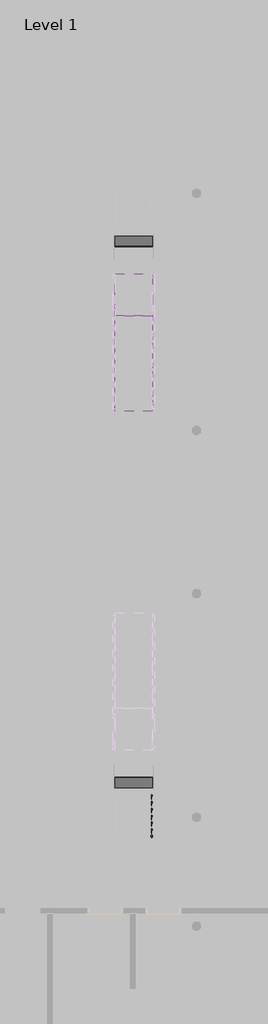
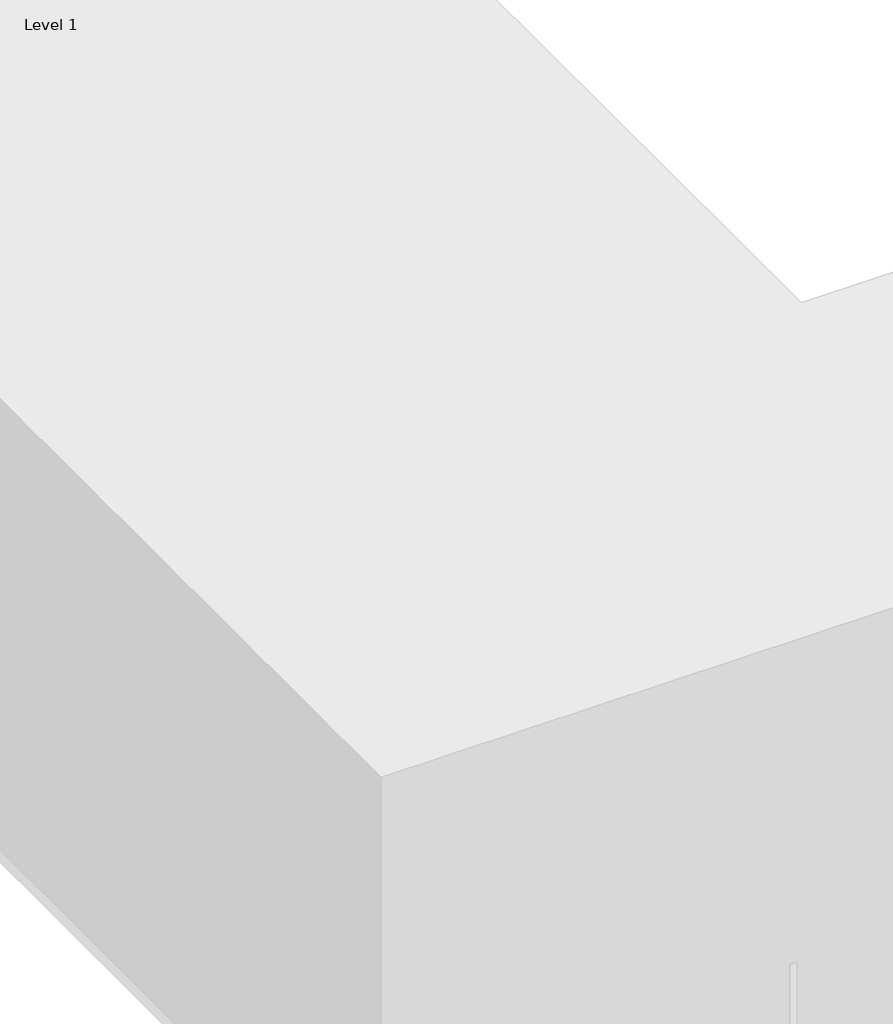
# One storey, part 19 of 23: 3 stair flights, 1 railing, 1 slab.
"""IFC4 building model written with IfcOpenShell, lengths in millimetres."""

from ifc_helpers import new_model, si_unit, frame, origin, place, context, project, spatial, circle_curve, ellipse_curve, transform, mapped, element, save
from ifc_brep_helpers import plane_surface, cylinder_surface, advanced_brep
from components import non_monolithic_landing_4b8d17eb, stair_flight_50mm_tread_25mm_nosing_13mm_riser_1179de64, stair_flight_50mm_tread_25mm_nosing_13mm_riser_29f21586, stair_flight_50mm_tread_25mm_nosing_13mm_riser_00f31970

model = new_model("IFC4")

# Units and contexts
model_context = context("Model", 3, world=origin())
ifc_project = project(units=[si_unit("LENGTHUNIT", "METRE", prefix="MILLI")], contexts=[model_context])

# Site, building, storey
site = spatial("IfcSite", under=ifc_project)
building = spatial("IfcBuilding", under=site)
storey = spatial("IfcBuildingStorey", under=building, Name="Level 1", Elevation=0.0)

# Railing
placement = place(None, origin())
element("IfcRailing", 1, ObjectType="900mm Pipe", at=placement, inside=storey, context=model_context, shape_type="AdvancedBrep", body=[
    advanced_brep(
    [(3663.2567657, -13373.8611817, 1049.1094102), (3623.2567657, -13373.8611817, 1049.1094102), (3663.2567657, -10618.1011638, 2780.0), (3623.2567657, -10618.1011638, 2780.0), (3663.2567657, -9693.1011638, 2780.0), (3623.2567657, -9693.1011638, 2780.0), (3663.2567657, -9413.2234845, 2955.790939), (3623.2567657, -9413.2234845, 2955.790939), (3663.2567657, -6673.8611817, 4676.3821375), (3623.2567657, -6673.8611817, 4676.3821375)],
    [
        (0, 1, ellipse_curve(frame((3643.2567657, -13373.8611817, 1049.1094102), z_axis=(0.0, -1.0, 0.0), x_axis=(0.0, 0.0, -1.0)), 23.6178625, 20.0)),
        (1, 0, ellipse_curve(frame((3643.2567657, -13373.8611817, 1049.1094102), z_axis=(0.0, -1.0, 0.0), x_axis=(0.0, 0.0, -1.0)), 23.6178625, 20.0)),
        (0, 2),
        (2, 3, ellipse_curve(frame((3643.2567657, -10618.1011638, 2780.0), z_axis=(0.0, -0.9609413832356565, -0.2767519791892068), x_axis=(0.0, 0.2767519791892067, -0.9609413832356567)), 20.812924, 20.0)),
        (3, 1),
        (3, 2, ellipse_curve(frame((3643.2567657, -10618.1011638, 2780.0), z_axis=(0.0, -0.9609413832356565, -0.2767519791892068), x_axis=(0.0, 0.2767519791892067, -0.9609413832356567)), 20.812924, 20.0)),
        (2, 4),
        (4, 5, ellipse_curve(frame((3643.2567657, -9693.1011638, 2780.0), z_axis=(0.0, -0.9609413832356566, -0.2767519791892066), x_axis=(0.0, -0.2767519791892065, 0.9609413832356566)), 20.812924, 20.0)),
        (5, 3),
        (5, 4, ellipse_curve(frame((3643.2567657, -9693.1011638, 2780.0), z_axis=(0.0, -0.9609413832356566, -0.2767519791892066), x_axis=(0.0, -0.2767519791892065, 0.9609413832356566)), 20.812924, 20.0)),
        (4, 6),
        (6, 7, circle_curve(frame((3643.2567657, -9413.2234845, 2955.790939), z_axis=(0.0, -0.846816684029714, -0.5318848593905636), x_axis=(-1.0, 0.0, 0.0)), 20.0)),
        (7, 5),
        (7, 6, circle_curve(frame((3643.2567657, -9413.2234845, 2955.790939), z_axis=(0.0, -0.846816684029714, -0.5318848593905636), x_axis=(-1.0, 0.0, 0.0)), 20.0)),
        (8, 9, ellipse_curve(frame((3643.2567657, -6673.8611817, 4676.3821375), z_axis=(0.0, 1.0, 0.0), x_axis=(0.0, 0.0, -1.0)), 23.6178625, 20.0)),
        (9, 8, ellipse_curve(frame((3643.2567657, -6673.8611817, 4676.3821375), z_axis=(0.0, 1.0, 0.0), x_axis=(0.0, 0.0, -1.0)), 23.6178625, 20.0)),
        (6, 8),
        (9, 7),
    ],
    [
        plane_surface(frame((3643.2567657, -13373.8611817, 1072.7272727), z_axis=(0.0, -1.0, 0.0), x_axis=(0.0, 0.0, 1.0))),
        cylinder_surface(frame((3643.2567657, -13363.2234845, 1055.790939), z_axis=(0.0, -0.8468166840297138, -0.5318848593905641), x_axis=(-1.0, 0.0, 0.0)), 20.0),
        cylinder_surface(frame((3643.2567657, -10623.8611817, 2780.0), z_axis=(0.0, -1.0, 0.0), x_axis=(-1.0, 0.0, 0.0)), 20.0),
        cylinder_surface(frame((3643.2567657, -9688.2234845, 2783.0636663), z_axis=(0.0, -0.846816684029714, -0.5318848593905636), x_axis=(-1.0, 0.0, 0.0)), 20.0),
        plane_surface(frame((3643.2567657, -6673.8611817, 4700.0), z_axis=(0.0, 1.0, 0.0), x_axis=(0.0, 0.0, 1.0))),
        cylinder_surface(frame((3643.2567657, -9413.2234845, 2955.790939), z_axis=(0.0, -0.8468166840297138, -0.5318848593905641), x_axis=(-1.0, 0.0, 0.0)), 20.0),
    ],
    [
        (0, [[1, 2]]),
        (1, [[-1, 3, 4, 5]]),
        (1, [[-2, -5, 6, -3]]),
        (2, [[-4, 7, 8, 9]]),
        (2, [[-6, -9, 10, -7]]),
        (3, [[-8, 11, 12, 13]]),
        (3, [[-10, -13, 14, -11]]),
        (4, [[15, 16]]),
        (5, [[-12, 17, -16, 18]]),
        (5, [[-14, -18, -15, -17]]),
    ],
),
    advanced_brep(
    [(3628.2567657, -13373.8611817, 930.0138759), (3658.2567657, -13373.8611817, 930.0138759), (3628.2567657, -10623.8611817, 2657.2866031), (3658.2567657, -10623.8611817, 2657.2866031)],
    [
        (0, 1, ellipse_curve(frame((3643.2567657, -13373.8611817, 930.0138759), z_axis=(0.0, -1.0, 0.0), x_axis=(0.0, 0.0, -1.0)), 17.7133969, 15.0)),
        (1, 0, ellipse_curve(frame((3643.2567657, -13373.8611817, 930.0138759), z_axis=(0.0, -1.0, 0.0), x_axis=(0.0, 0.0, -1.0)), 17.7133969, 15.0)),
        (2, 3, ellipse_curve(frame((3643.2567657, -10623.8611817, 2657.2866031), z_axis=(0.0, 1.0, 0.0), x_axis=(0.0, 0.0, -1.0)), 17.7133969, 15.0)),
        (3, 2, ellipse_curve(frame((3643.2567657, -10623.8611817, 2657.2866031), z_axis=(0.0, 1.0, 0.0), x_axis=(0.0, 0.0, -1.0)), 17.7133969, 15.0)),
        (0, 2),
        (3, 1),
    ],
    [
        plane_surface(frame((3643.2567657, -13373.8611817, 947.7272727), z_axis=(0.0, -1.0, 0.0), x_axis=(0.0, 0.0, 1.0))),
        plane_surface(frame((3643.2567657, -10623.8611817, 2675.0), z_axis=(0.0, 1.0, 0.0), x_axis=(0.0, 0.0, 1.0))),
        cylinder_surface(frame((3643.2567657, -13365.8829088, 935.0250225), z_axis=(0.0, -0.8468166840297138, -0.5318848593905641), x_axis=(1.0, 0.0, 0.0)), 15.0),
    ],
    [
        (0, [[1, 2]]),
        (1, [[3, 4]]),
        (2, [[-1, 5, -4, 6]]),
        (2, [[-2, -6, -3, -5]]),
    ],
),
    advanced_brep(
    [(3628.2567657, -10623.8611817, 2660.0), (3658.2567657, -10623.8611817, 2660.0), (3628.2567657, -9694.5411682, 2660.0), (3658.2567657, -9694.5411682, 2660.0), (3628.2567657, -9423.8611817, 2830.0138759), (3658.2567657, -9423.8611817, 2830.0138759)],
    [
        (0, 1, circle_curve(frame((3643.2567657, -10623.8611817, 2660.0), z_axis=(0.0, -1.0, 0.0), x_axis=(1.0, 0.0, 0.0)), 15.0)),
        (1, 0, circle_curve(frame((3643.2567657, -10623.8611817, 2660.0), z_axis=(0.0, -1.0, 0.0), x_axis=(1.0, 0.0, 0.0)), 15.0)),
        (0, 2),
        (2, 3, ellipse_curve(frame((3643.2567657, -9694.5411682, 2660.0), z_axis=(0.0, -0.9609413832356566, -0.2767519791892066), x_axis=(0.0, -0.27675197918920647, 0.9609413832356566)), 15.609693, 15.0)),
        (3, 1),
        (3, 2, ellipse_curve(frame((3643.2567657, -9694.5411682, 2660.0), z_axis=(0.0, -0.9609413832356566, -0.2767519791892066), x_axis=(0.0, -0.27675197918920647, 0.9609413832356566)), 15.609693, 15.0)),
        (4, 5, ellipse_curve(frame((3643.2567657, -9423.8611817, 2830.0138759), z_axis=(0.0, 1.0, 0.0), x_axis=(0.0, 0.0, -1.0)), 17.7133969, 15.0)),
        (5, 4, ellipse_curve(frame((3643.2567657, -9423.8611817, 2830.0138759), z_axis=(0.0, 1.0, 0.0), x_axis=(0.0, 0.0, -1.0)), 17.7133969, 15.0)),
        (2, 4),
        (5, 3),
    ],
    [
        plane_surface(frame((3643.2567657, -10623.8611817, 2675.0), z_axis=(0.0, -1.0, 0.0), x_axis=(0.0, 0.0, 1.0))),
        cylinder_surface(frame((3643.2567657, -10623.8611817, 2660.0), z_axis=(0.0, -1.0, 0.0), x_axis=(1.0, 0.0, 0.0)), 15.0),
        plane_surface(frame((3643.2567657, -9423.8611817, 2847.7272727), z_axis=(0.0, 1.0, 0.0), x_axis=(0.0, 0.0, 1.0))),
        cylinder_surface(frame((3643.2567657, -9690.8829088, 2662.2977497), z_axis=(0.0, -0.846816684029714, -0.5318848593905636), x_axis=(1.0, 0.0, 0.0)), 15.0),
    ],
    [
        (0, [[1, 2]]),
        (1, [[-1, 3, 4, 5]]),
        (1, [[-2, -5, 6, -3]]),
        (2, [[7, 8]]),
        (3, [[-4, 9, -8, 10]]),
        (3, [[-6, -10, -7, -9]]),
    ],
),
    advanced_brep(
    [(3628.2567657, -9423.8611817, 2830.0138759), (3658.2567657, -9423.8611817, 2830.0138759), (3628.2567657, -6673.8611817, 4557.2866031), (3658.2567657, -6673.8611817, 4557.2866031)],
    [
        (0, 1, ellipse_curve(frame((3643.2567657, -9423.8611817, 2830.0138759), z_axis=(0.0, -1.0, 0.0), x_axis=(0.0, 0.0, -1.0)), 17.7133969, 15.0)),
        (1, 0, ellipse_curve(frame((3643.2567657, -9423.8611817, 2830.0138759), z_axis=(0.0, -1.0, 0.0), x_axis=(0.0, 0.0, -1.0)), 17.7133969, 15.0)),
        (2, 3, ellipse_curve(frame((3643.2567657, -6673.8611817, 4557.2866031), z_axis=(0.0, 1.0, 0.0), x_axis=(0.0, 0.0, -1.0)), 17.7133969, 15.0)),
        (3, 2, ellipse_curve(frame((3643.2567657, -6673.8611817, 4557.2866031), z_axis=(0.0, 1.0, 0.0), x_axis=(0.0, 0.0, -1.0)), 17.7133969, 15.0)),
        (0, 2),
        (3, 1),
    ],
    [
        plane_surface(frame((3643.2567657, -9423.8611817, 2847.7272727), z_axis=(0.0, -1.0, 0.0), x_axis=(0.0, 0.0, 1.0))),
        plane_surface(frame((3643.2567657, -6673.8611817, 4575.0), z_axis=(0.0, 1.0, 0.0), x_axis=(0.0, 0.0, 1.0))),
        cylinder_surface(frame((3643.2567657, -9415.8829088, 2835.0250225), z_axis=(0.0, -0.8468166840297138, -0.5318848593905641), x_axis=(1.0, 0.0, 0.0)), 15.0),
    ],
    [
        (0, [[1, 2]]),
        (1, [[3, 4]]),
        (2, [[-1, 5, -4, 6]]),
        (2, [[-2, -6, -3, -5]]),
    ],
),
    advanced_brep(
    [(3628.2567657, -13373.8611817, 805.0138759), (3658.2567657, -13373.8611817, 805.0138759), (3628.2567657, -10623.8611817, 2532.2866031), (3658.2567657, -10623.8611817, 2532.2866031)],
    [
        (0, 1, ellipse_curve(frame((3643.2567657, -13373.8611817, 805.0138759), z_axis=(0.0, -1.0, 0.0), x_axis=(0.0, 0.0, -1.0)), 17.7133969, 15.0)),
        (1, 0, ellipse_curve(frame((3643.2567657, -13373.8611817, 805.0138759), z_axis=(0.0, -1.0, 0.0), x_axis=(0.0, 0.0, -1.0)), 17.7133969, 15.0)),
        (2, 3, ellipse_curve(frame((3643.2567657, -10623.8611817, 2532.2866031), z_axis=(0.0, 1.0, 0.0), x_axis=(0.0, 0.0, -1.0)), 17.7133969, 15.0)),
        (3, 2, ellipse_curve(frame((3643.2567657, -10623.8611817, 2532.2866031), z_axis=(0.0, 1.0, 0.0), x_axis=(0.0, 0.0, -1.0)), 17.7133969, 15.0)),
        (0, 2),
        (3, 1),
    ],
    [
        plane_surface(frame((3643.2567657, -13373.8611817, 822.7272727), z_axis=(0.0, -1.0, 0.0), x_axis=(0.0, 0.0, 1.0))),
        plane_surface(frame((3643.2567657, -10623.8611817, 2550.0), z_axis=(0.0, 1.0, 0.0), x_axis=(0.0, 0.0, 1.0))),
        cylinder_surface(frame((3643.2567657, -13365.8829088, 810.0250225), z_axis=(0.0, -0.8468166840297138, -0.5318848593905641), x_axis=(1.0, 0.0, 0.0)), 15.0),
    ],
    [
        (0, [[1, 2]]),
        (1, [[3, 4]]),
        (2, [[-1, 5, -4, 6]]),
        (2, [[-2, -6, -3, -5]]),
    ],
),
    advanced_brep(
    [(3628.2567657, -10623.8611817, 2535.0), (3658.2567657, -10623.8611817, 2535.0), (3628.2567657, -9694.5411682, 2535.0), (3658.2567657, -9694.5411682, 2535.0), (3628.2567657, -9423.8611817, 2705.0138759), (3658.2567657, -9423.8611817, 2705.0138759)],
    [
        (0, 1, circle_curve(frame((3643.2567657, -10623.8611817, 2535.0), z_axis=(0.0, -1.0, 0.0), x_axis=(1.0, 0.0, 0.0)), 15.0)),
        (1, 0, circle_curve(frame((3643.2567657, -10623.8611817, 2535.0), z_axis=(0.0, -1.0, 0.0), x_axis=(1.0, 0.0, 0.0)), 15.0)),
        (0, 2),
        (2, 3, ellipse_curve(frame((3643.2567657, -9694.5411682, 2535.0), z_axis=(0.0, -0.9609413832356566, -0.2767519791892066), x_axis=(0.0, -0.27675197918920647, 0.9609413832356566)), 15.609693, 15.0)),
        (3, 1),
        (3, 2, ellipse_curve(frame((3643.2567657, -9694.5411682, 2535.0), z_axis=(0.0, -0.9609413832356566, -0.2767519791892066), x_axis=(0.0, -0.27675197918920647, 0.9609413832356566)), 15.609693, 15.0)),
        (4, 5, ellipse_curve(frame((3643.2567657, -9423.8611817, 2705.0138759), z_axis=(0.0, 1.0, 0.0), x_axis=(0.0, 0.0, -1.0)), 17.7133969, 15.0)),
        (5, 4, ellipse_curve(frame((3643.2567657, -9423.8611817, 2705.0138759), z_axis=(0.0, 1.0, 0.0), x_axis=(0.0, 0.0, -1.0)), 17.7133969, 15.0)),
        (2, 4),
        (5, 3),
    ],
    [
        plane_surface(frame((3643.2567657, -10623.8611817, 2550.0), z_axis=(0.0, -1.0, 0.0), x_axis=(0.0, 0.0, 1.0))),
        cylinder_surface(frame((3643.2567657, -10623.8611817, 2535.0), z_axis=(0.0, -1.0, 0.0), x_axis=(1.0, 0.0, 0.0)), 15.0),
        plane_surface(frame((3643.2567657, -9423.8611817, 2722.7272727), z_axis=(0.0, 1.0, 0.0), x_axis=(0.0, 0.0, 1.0))),
        cylinder_surface(frame((3643.2567657, -9690.8829088, 2537.2977497), z_axis=(0.0, -0.846816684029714, -0.5318848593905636), x_axis=(1.0, 0.0, 0.0)), 15.0),
    ],
    [
        (0, [[1, 2]]),
        (1, [[-1, 3, 4, 5]]),
        (1, [[-2, -5, 6, -3]]),
        (2, [[7, 8]]),
        (3, [[-4, 9, -8, 10]]),
        (3, [[-6, -10, -7, -9]]),
    ],
),
    advanced_brep(
    [(3628.2567657, -9423.8611817, 2705.0138759), (3658.2567657, -9423.8611817, 2705.0138759), (3628.2567657, -6673.8611817, 4432.2866031), (3658.2567657, -6673.8611817, 4432.2866031)],
    [
        (0, 1, ellipse_curve(frame((3643.2567657, -9423.8611817, 2705.0138759), z_axis=(0.0, -1.0, 0.0), x_axis=(0.0, 0.0, -1.0)), 17.7133969, 15.0)),
        (1, 0, ellipse_curve(frame((3643.2567657, -9423.8611817, 2705.0138759), z_axis=(0.0, -1.0, 0.0), x_axis=(0.0, 0.0, -1.0)), 17.7133969, 15.0)),
        (2, 3, ellipse_curve(frame((3643.2567657, -6673.8611817, 4432.2866031), z_axis=(0.0, 1.0, 0.0), x_axis=(0.0, 0.0, -1.0)), 17.7133969, 15.0)),
        (3, 2, ellipse_curve(frame((3643.2567657, -6673.8611817, 4432.2866031), z_axis=(0.0, 1.0, 0.0), x_axis=(0.0, 0.0, -1.0)), 17.7133969, 15.0)),
        (0, 2),
        (3, 1),
    ],
    [
        plane_surface(frame((3643.2567657, -9423.8611817, 2722.7272727), z_axis=(0.0, -1.0, 0.0), x_axis=(0.0, 0.0, 1.0))),
        plane_surface(frame((3643.2567657, -6673.8611817, 4450.0), z_axis=(0.0, 1.0, 0.0), x_axis=(0.0, 0.0, 1.0))),
        cylinder_surface(frame((3643.2567657, -9415.8829088, 2710.0250225), z_axis=(0.0, -0.8468166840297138, -0.5318848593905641), x_axis=(1.0, 0.0, 0.0)), 15.0),
    ],
    [
        (0, [[1, 2]]),
        (1, [[3, 4]]),
        (2, [[-1, 5, -4, 6]]),
        (2, [[-2, -6, -3, -5]]),
    ],
),
    advanced_brep(
    [(3628.2567657, -13373.8611817, 680.0138759), (3658.2567657, -13373.8611817, 680.0138759), (3628.2567657, -10623.8611817, 2407.2866031), (3658.2567657, -10623.8611817, 2407.2866031)],
    [
        (0, 1, ellipse_curve(frame((3643.2567657, -13373.8611817, 680.0138759), z_axis=(0.0, -1.0, 0.0), x_axis=(0.0, 0.0, -1.0)), 17.7133969, 15.0)),
        (1, 0, ellipse_curve(frame((3643.2567657, -13373.8611817, 680.0138759), z_axis=(0.0, -1.0, 0.0), x_axis=(0.0, 0.0, -1.0)), 17.7133969, 15.0)),
        (2, 3, ellipse_curve(frame((3643.2567657, -10623.8611817, 2407.2866031), z_axis=(0.0, 1.0, 0.0), x_axis=(0.0, 0.0, -1.0)), 17.7133969, 15.0)),
        (3, 2, ellipse_curve(frame((3643.2567657, -10623.8611817, 2407.2866031), z_axis=(0.0, 1.0, 0.0), x_axis=(0.0, 0.0, -1.0)), 17.7133969, 15.0)),
        (0, 2),
        (3, 1),
    ],
    [
        plane_surface(frame((3643.2567657, -13373.8611817, 697.7272727), z_axis=(0.0, -1.0, 0.0), x_axis=(0.0, 0.0, 1.0))),
        plane_surface(frame((3643.2567657, -10623.8611817, 2425.0), z_axis=(0.0, 1.0, 0.0), x_axis=(0.0, 0.0, 1.0))),
        cylinder_surface(frame((3643.2567657, -13365.8829088, 685.0250225), z_axis=(0.0, -0.8468166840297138, -0.5318848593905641), x_axis=(1.0, 0.0, 0.0)), 15.0),
    ],
    [
        (0, [[1, 2]]),
        (1, [[3, 4]]),
        (2, [[-1, 5, -4, 6]]),
        (2, [[-2, -6, -3, -5]]),
    ],
),
    advanced_brep(
    [(3628.2567657, -10623.8611817, 2410.0), (3658.2567657, -10623.8611817, 2410.0), (3628.2567657, -9694.5411682, 2410.0), (3658.2567657, -9694.5411682, 2410.0), (3628.2567657, -9423.8611817, 2580.0138759), (3658.2567657, -9423.8611817, 2580.0138759)],
    [
        (0, 1, circle_curve(frame((3643.2567657, -10623.8611817, 2410.0), z_axis=(0.0, -1.0, 0.0), x_axis=(1.0, 0.0, 0.0)), 15.0)),
        (1, 0, circle_curve(frame((3643.2567657, -10623.8611817, 2410.0), z_axis=(0.0, -1.0, 0.0), x_axis=(1.0, 0.0, 0.0)), 15.0)),
        (0, 2),
        (2, 3, ellipse_curve(frame((3643.2567657, -9694.5411682, 2410.0), z_axis=(0.0, -0.9609413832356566, -0.2767519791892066), x_axis=(0.0, -0.27675197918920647, 0.9609413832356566)), 15.609693, 15.0)),
        (3, 1),
        (3, 2, ellipse_curve(frame((3643.2567657, -9694.5411682, 2410.0), z_axis=(0.0, -0.9609413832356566, -0.2767519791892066), x_axis=(0.0, -0.27675197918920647, 0.9609413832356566)), 15.609693, 15.0)),
        (4, 5, ellipse_curve(frame((3643.2567657, -9423.8611817, 2580.0138759), z_axis=(0.0, 1.0, 0.0), x_axis=(0.0, 0.0, -1.0)), 17.7133969, 15.0)),
        (5, 4, ellipse_curve(frame((3643.2567657, -9423.8611817, 2580.0138759), z_axis=(0.0, 1.0, 0.0), x_axis=(0.0, 0.0, -1.0)), 17.7133969, 15.0)),
        (2, 4),
        (5, 3),
    ],
    [
        plane_surface(frame((3643.2567657, -10623.8611817, 2425.0), z_axis=(0.0, -1.0, 0.0), x_axis=(0.0, 0.0, 1.0))),
        cylinder_surface(frame((3643.2567657, -10623.8611817, 2410.0), z_axis=(0.0, -1.0, 0.0), x_axis=(1.0, 0.0, 0.0)), 15.0),
        plane_surface(frame((3643.2567657, -9423.8611817, 2597.7272727), z_axis=(0.0, 1.0, 0.0), x_axis=(0.0, 0.0, 1.0))),
        cylinder_surface(frame((3643.2567657, -9690.8829088, 2412.2977497), z_axis=(0.0, -0.846816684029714, -0.5318848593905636), x_axis=(1.0, 0.0, 0.0)), 15.0),
    ],
    [
        (0, [[1, 2]]),
        (1, [[-1, 3, 4, 5]]),
        (1, [[-2, -5, 6, -3]]),
        (2, [[7, 8]]),
        (3, [[-4, 9, -8, 10]]),
        (3, [[-6, -10, -7, -9]]),
    ],
),
    advanced_brep(
    [(3628.2567657, -9423.8611817, 2580.0138759), (3658.2567657, -9423.8611817, 2580.0138759), (3628.2567657, -6673.8611817, 4307.2866031), (3658.2567657, -6673.8611817, 4307.2866031)],
    [
        (0, 1, ellipse_curve(frame((3643.2567657, -9423.8611817, 2580.0138759), z_axis=(0.0, -1.0, 0.0), x_axis=(0.0, 0.0, -1.0)), 17.7133969, 15.0)),
        (1, 0, ellipse_curve(frame((3643.2567657, -9423.8611817, 2580.0138759), z_axis=(0.0, -1.0, 0.0), x_axis=(0.0, 0.0, -1.0)), 17.7133969, 15.0)),
        (2, 3, ellipse_curve(frame((3643.2567657, -6673.8611817, 4307.2866031), z_axis=(0.0, 1.0, 0.0), x_axis=(0.0, 0.0, -1.0)), 17.7133969, 15.0)),
        (3, 2, ellipse_curve(frame((3643.2567657, -6673.8611817, 4307.2866031), z_axis=(0.0, 1.0, 0.0), x_axis=(0.0, 0.0, -1.0)), 17.7133969, 15.0)),
        (0, 2),
        (3, 1),
    ],
    [
        plane_surface(frame((3643.2567657, -9423.8611817, 2597.7272727), z_axis=(0.0, -1.0, 0.0), x_axis=(0.0, 0.0, 1.0))),
        plane_surface(frame((3643.2567657, -6673.8611817, 4325.0), z_axis=(0.0, 1.0, 0.0), x_axis=(0.0, 0.0, 1.0))),
        cylinder_surface(frame((3643.2567657, -9415.8829088, 2585.0250225), z_axis=(0.0, -0.8468166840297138, -0.5318848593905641), x_axis=(1.0, 0.0, 0.0)), 15.0),
    ],
    [
        (0, [[1, 2]]),
        (1, [[3, 4]]),
        (2, [[-1, 5, -4, 6]]),
        (2, [[-2, -6, -3, -5]]),
    ],
),
    advanced_brep(
    [(3628.2567657, -13373.8611817, 555.0138759), (3658.2567657, -13373.8611817, 555.0138759), (3628.2567657, -10623.8611817, 2282.2866031), (3658.2567657, -10623.8611817, 2282.2866031)],
    [
        (0, 1, ellipse_curve(frame((3643.2567657, -13373.8611817, 555.0138759), z_axis=(0.0, -1.0, 0.0), x_axis=(0.0, 0.0, -1.0)), 17.7133969, 15.0)),
        (1, 0, ellipse_curve(frame((3643.2567657, -13373.8611817, 555.0138759), z_axis=(0.0, -1.0, 0.0), x_axis=(0.0, 0.0, -1.0)), 17.7133969, 15.0)),
        (2, 3, ellipse_curve(frame((3643.2567657, -10623.8611817, 2282.2866031), z_axis=(0.0, 1.0, 0.0), x_axis=(0.0, 0.0, -1.0)), 17.7133969, 15.0)),
        (3, 2, ellipse_curve(frame((3643.2567657, -10623.8611817, 2282.2866031), z_axis=(0.0, 1.0, 0.0), x_axis=(0.0, 0.0, -1.0)), 17.7133969, 15.0)),
        (0, 2),
        (3, 1),
    ],
    [
        plane_surface(frame((3643.2567657, -13373.8611817, 572.7272727), z_axis=(0.0, -1.0, 0.0), x_axis=(0.0, 0.0, 1.0))),
        plane_surface(frame((3643.2567657, -10623.8611817, 2300.0), z_axis=(0.0, 1.0, 0.0), x_axis=(0.0, 0.0, 1.0))),
        cylinder_surface(frame((3643.2567657, -13365.8829088, 560.0250225), z_axis=(0.0, -0.8468166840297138, -0.5318848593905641), x_axis=(1.0, 0.0, 0.0)), 15.0),
    ],
    [
        (0, [[1, 2]]),
        (1, [[3, 4]]),
        (2, [[-1, 5, -4, 6]]),
        (2, [[-2, -6, -3, -5]]),
    ],
),
    advanced_brep(
    [(3628.2567657, -10623.8611817, 2285.0), (3658.2567657, -10623.8611817, 2285.0), (3628.2567657, -9694.5411682, 2285.0), (3658.2567657, -9694.5411682, 2285.0), (3628.2567657, -9423.8611817, 2455.0138759), (3658.2567657, -9423.8611817, 2455.0138759)],
    [
        (0, 1, circle_curve(frame((3643.2567657, -10623.8611817, 2285.0), z_axis=(0.0, -1.0, 0.0), x_axis=(1.0, 0.0, 0.0)), 15.0)),
        (1, 0, circle_curve(frame((3643.2567657, -10623.8611817, 2285.0), z_axis=(0.0, -1.0, 0.0), x_axis=(1.0, 0.0, 0.0)), 15.0)),
        (0, 2),
        (2, 3, ellipse_curve(frame((3643.2567657, -9694.5411682, 2285.0), z_axis=(0.0, -0.9609413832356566, -0.2767519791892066), x_axis=(0.0, -0.27675197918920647, 0.9609413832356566)), 15.609693, 15.0)),
        (3, 1),
        (3, 2, ellipse_curve(frame((3643.2567657, -9694.5411682, 2285.0), z_axis=(0.0, -0.9609413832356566, -0.2767519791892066), x_axis=(0.0, -0.27675197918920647, 0.9609413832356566)), 15.609693, 15.0)),
        (4, 5, ellipse_curve(frame((3643.2567657, -9423.8611817, 2455.0138759), z_axis=(0.0, 1.0, 0.0), x_axis=(0.0, 0.0, -1.0)), 17.7133969, 15.0)),
        (5, 4, ellipse_curve(frame((3643.2567657, -9423.8611817, 2455.0138759), z_axis=(0.0, 1.0, 0.0), x_axis=(0.0, 0.0, -1.0)), 17.7133969, 15.0)),
        (2, 4),
        (5, 3),
    ],
    [
        plane_surface(frame((3643.2567657, -10623.8611817, 2300.0), z_axis=(0.0, -1.0, 0.0), x_axis=(0.0, 0.0, 1.0))),
        cylinder_surface(frame((3643.2567657, -10623.8611817, 2285.0), z_axis=(0.0, -1.0, 0.0), x_axis=(1.0, 0.0, 0.0)), 15.0),
        plane_surface(frame((3643.2567657, -9423.8611817, 2472.7272727), z_axis=(0.0, 1.0, 0.0), x_axis=(0.0, 0.0, 1.0))),
        cylinder_surface(frame((3643.2567657, -9690.8829088, 2287.2977497), z_axis=(0.0, -0.846816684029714, -0.5318848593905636), x_axis=(1.0, 0.0, 0.0)), 15.0),
    ],
    [
        (0, [[1, 2]]),
        (1, [[-1, 3, 4, 5]]),
        (1, [[-2, -5, 6, -3]]),
        (2, [[7, 8]]),
        (3, [[-4, 9, -8, 10]]),
        (3, [[-6, -10, -7, -9]]),
    ],
),
    advanced_brep(
    [(3628.2567657, -9423.8611817, 2455.0138759), (3658.2567657, -9423.8611817, 2455.0138759), (3628.2567657, -6673.8611817, 4182.2866031), (3658.2567657, -6673.8611817, 4182.2866031)],
    [
        (0, 1, ellipse_curve(frame((3643.2567657, -9423.8611817, 2455.0138759), z_axis=(0.0, -1.0, 0.0), x_axis=(0.0, 0.0, -1.0)), 17.7133969, 15.0)),
        (1, 0, ellipse_curve(frame((3643.2567657, -9423.8611817, 2455.0138759), z_axis=(0.0, -1.0, 0.0), x_axis=(0.0, 0.0, -1.0)), 17.7133969, 15.0)),
        (2, 3, ellipse_curve(frame((3643.2567657, -6673.8611817, 4182.2866031), z_axis=(0.0, 1.0, 0.0), x_axis=(0.0, 0.0, -1.0)), 17.7133969, 15.0)),
        (3, 2, ellipse_curve(frame((3643.2567657, -6673.8611817, 4182.2866031), z_axis=(0.0, 1.0, 0.0), x_axis=(0.0, 0.0, -1.0)), 17.7133969, 15.0)),
        (0, 2),
        (3, 1),
    ],
    [
        plane_surface(frame((3643.2567657, -9423.8611817, 2472.7272727), z_axis=(0.0, -1.0, 0.0), x_axis=(0.0, 0.0, 1.0))),
        plane_surface(frame((3643.2567657, -6673.8611817, 4200.0), z_axis=(0.0, 1.0, 0.0), x_axis=(0.0, 0.0, 1.0))),
        cylinder_surface(frame((3643.2567657, -9415.8829088, 2460.0250225), z_axis=(0.0, -0.8468166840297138, -0.5318848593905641), x_axis=(1.0, 0.0, 0.0)), 15.0),
    ],
    [
        (0, [[1, 2]]),
        (1, [[3, 4]]),
        (2, [[-1, 5, -4, 6]]),
        (2, [[-2, -6, -3, -5]]),
    ],
),
    advanced_brep(
    [(3628.2567657, -13373.8611817, 430.0138759), (3658.2567657, -13373.8611817, 430.0138759), (3628.2567657, -10623.8611817, 2157.2866031), (3658.2567657, -10623.8611817, 2157.2866031)],
    [
        (0, 1, ellipse_curve(frame((3643.2567657, -13373.8611817, 430.0138759), z_axis=(0.0, -1.0, 0.0), x_axis=(0.0, 0.0, -1.0)), 17.7133969, 15.0)),
        (1, 0, ellipse_curve(frame((3643.2567657, -13373.8611817, 430.0138759), z_axis=(0.0, -1.0, 0.0), x_axis=(0.0, 0.0, -1.0)), 17.7133969, 15.0)),
        (2, 3, ellipse_curve(frame((3643.2567657, -10623.8611817, 2157.2866031), z_axis=(0.0, 1.0, 0.0), x_axis=(0.0, 0.0, -1.0)), 17.7133969, 15.0)),
        (3, 2, ellipse_curve(frame((3643.2567657, -10623.8611817, 2157.2866031), z_axis=(0.0, 1.0, 0.0), x_axis=(0.0, 0.0, -1.0)), 17.7133969, 15.0)),
        (0, 2),
        (3, 1),
    ],
    [
        plane_surface(frame((3643.2567657, -13373.8611817, 447.7272727), z_axis=(0.0, -1.0, 0.0), x_axis=(0.0, 0.0, 1.0))),
        plane_surface(frame((3643.2567657, -10623.8611817, 2175.0), z_axis=(0.0, 1.0, 0.0), x_axis=(0.0, 0.0, 1.0))),
        cylinder_surface(frame((3643.2567657, -13365.8829088, 435.0250225), z_axis=(0.0, -0.8468166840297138, -0.5318848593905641), x_axis=(1.0, 0.0, 0.0)), 15.0),
    ],
    [
        (0, [[1, 2]]),
        (1, [[3, 4]]),
        (2, [[-1, 5, -4, 6]]),
        (2, [[-2, -6, -3, -5]]),
    ],
),
    advanced_brep(
    [(3628.2567657, -10623.8611817, 2160.0), (3658.2567657, -10623.8611817, 2160.0), (3628.2567657, -9694.5411682, 2160.0), (3658.2567657, -9694.5411682, 2160.0), (3628.2567657, -9423.8611817, 2330.0138759), (3658.2567657, -9423.8611817, 2330.0138759)],
    [
        (0, 1, circle_curve(frame((3643.2567657, -10623.8611817, 2160.0), z_axis=(0.0, -1.0, 0.0), x_axis=(1.0, 0.0, 0.0)), 15.0)),
        (1, 0, circle_curve(frame((3643.2567657, -10623.8611817, 2160.0), z_axis=(0.0, -1.0, 0.0), x_axis=(1.0, 0.0, 0.0)), 15.0)),
        (0, 2),
        (2, 3, ellipse_curve(frame((3643.2567657, -9694.5411682, 2160.0), z_axis=(0.0, -0.9609413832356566, -0.2767519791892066), x_axis=(0.0, -0.27675197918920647, 0.9609413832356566)), 15.609693, 15.0)),
        (3, 1),
        (3, 2, ellipse_curve(frame((3643.2567657, -9694.5411682, 2160.0), z_axis=(0.0, -0.9609413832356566, -0.2767519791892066), x_axis=(0.0, -0.27675197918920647, 0.9609413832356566)), 15.609693, 15.0)),
        (4, 5, ellipse_curve(frame((3643.2567657, -9423.8611817, 2330.0138759), z_axis=(0.0, 1.0, 0.0), x_axis=(0.0, 0.0, -1.0)), 17.7133969, 15.0)),
        (5, 4, ellipse_curve(frame((3643.2567657, -9423.8611817, 2330.0138759), z_axis=(0.0, 1.0, 0.0), x_axis=(0.0, 0.0, -1.0)), 17.7133969, 15.0)),
        (2, 4),
        (5, 3),
    ],
    [
        plane_surface(frame((3643.2567657, -10623.8611817, 2175.0), z_axis=(0.0, -1.0, 0.0), x_axis=(0.0, 0.0, 1.0))),
        cylinder_surface(frame((3643.2567657, -10623.8611817, 2160.0), z_axis=(0.0, -1.0, 0.0), x_axis=(1.0, 0.0, 0.0)), 15.0),
        plane_surface(frame((3643.2567657, -9423.8611817, 2347.7272727), z_axis=(0.0, 1.0, 0.0), x_axis=(0.0, 0.0, 1.0))),
        cylinder_surface(frame((3643.2567657, -9690.8829088, 2162.2977497), z_axis=(0.0, -0.846816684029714, -0.5318848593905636), x_axis=(1.0, 0.0, 0.0)), 15.0),
    ],
    [
        (0, [[1, 2]]),
        (1, [[-1, 3, 4, 5]]),
        (1, [[-2, -5, 6, -3]]),
        (2, [[7, 8]]),
        (3, [[-4, 9, -8, 10]]),
        (3, [[-6, -10, -7, -9]]),
    ],
),
    advanced_brep(
    [(3628.2567657, -9423.8611817, 2330.0138759), (3658.2567657, -9423.8611817, 2330.0138759), (3628.2567657, -6673.8611817, 4057.2866031), (3658.2567657, -6673.8611817, 4057.2866031)],
    [
        (0, 1, ellipse_curve(frame((3643.2567657, -9423.8611817, 2330.0138759), z_axis=(0.0, -1.0, 0.0), x_axis=(0.0, 0.0, -1.0)), 17.7133969, 15.0)),
        (1, 0, ellipse_curve(frame((3643.2567657, -9423.8611817, 2330.0138759), z_axis=(0.0, -1.0, 0.0), x_axis=(0.0, 0.0, -1.0)), 17.7133969, 15.0)),
        (2, 3, ellipse_curve(frame((3643.2567657, -6673.8611817, 4057.2866031), z_axis=(0.0, 1.0, 0.0), x_axis=(0.0, 0.0, -1.0)), 17.7133969, 15.0)),
        (3, 2, ellipse_curve(frame((3643.2567657, -6673.8611817, 4057.2866031), z_axis=(0.0, 1.0, 0.0), x_axis=(0.0, 0.0, -1.0)), 17.7133969, 15.0)),
        (0, 2),
        (3, 1),
    ],
    [
        plane_surface(frame((3643.2567657, -9423.8611817, 2347.7272727), z_axis=(0.0, -1.0, 0.0), x_axis=(0.0, 0.0, 1.0))),
        plane_surface(frame((3643.2567657, -6673.8611817, 4075.0), z_axis=(0.0, 1.0, 0.0), x_axis=(0.0, 0.0, 1.0))),
        cylinder_surface(frame((3643.2567657, -9415.8829088, 2335.0250225), z_axis=(0.0, -0.8468166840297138, -0.5318848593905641), x_axis=(1.0, 0.0, 0.0)), 15.0),
    ],
    [
        (0, [[1, 2]]),
        (1, [[3, 4]]),
        (2, [[-1, 5, -4, 6]]),
        (2, [[-2, -6, -3, -5]]),
    ],
),
    advanced_brep(
    [(3628.2567657, -13373.8611817, 305.0138759), (3658.2567657, -13373.8611817, 305.0138759), (3628.2567657, -10623.8611817, 2032.2866031), (3658.2567657, -10623.8611817, 2032.2866031)],
    [
        (0, 1, ellipse_curve(frame((3643.2567657, -13373.8611817, 305.0138759), z_axis=(0.0, -1.0, 0.0), x_axis=(0.0, 0.0, -1.0)), 17.7133969, 15.0)),
        (1, 0, ellipse_curve(frame((3643.2567657, -13373.8611817, 305.0138759), z_axis=(0.0, -1.0, 0.0), x_axis=(0.0, 0.0, -1.0)), 17.7133969, 15.0)),
        (2, 3, ellipse_curve(frame((3643.2567657, -10623.8611817, 2032.2866031), z_axis=(0.0, 1.0, 0.0), x_axis=(0.0, 0.0, -1.0)), 17.7133969, 15.0)),
        (3, 2, ellipse_curve(frame((3643.2567657, -10623.8611817, 2032.2866031), z_axis=(0.0, 1.0, 0.0), x_axis=(0.0, 0.0, -1.0)), 17.7133969, 15.0)),
        (0, 2),
        (3, 1),
    ],
    [
        plane_surface(frame((3643.2567657, -13373.8611817, 322.7272727), z_axis=(0.0, -1.0, 0.0), x_axis=(0.0, 0.0, 1.0))),
        plane_surface(frame((3643.2567657, -10623.8611817, 2050.0), z_axis=(0.0, 1.0, 0.0), x_axis=(0.0, 0.0, 1.0))),
        cylinder_surface(frame((3643.2567657, -13365.8829088, 310.0250225), z_axis=(0.0, -0.8468166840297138, -0.5318848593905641), x_axis=(1.0, 0.0, 0.0)), 15.0),
    ],
    [
        (0, [[1, 2]]),
        (1, [[3, 4]]),
        (2, [[-1, 5, -4, 6]]),
        (2, [[-2, -6, -3, -5]]),
    ],
),
    advanced_brep(
    [(3628.2567657, -10623.8611817, 2035.0), (3658.2567657, -10623.8611817, 2035.0), (3628.2567657, -9694.5411682, 2035.0), (3658.2567657, -9694.5411682, 2035.0), (3628.2567657, -9423.8611817, 2205.0138759), (3658.2567657, -9423.8611817, 2205.0138759)],
    [
        (0, 1, circle_curve(frame((3643.2567657, -10623.8611817, 2035.0), z_axis=(0.0, -1.0, 0.0), x_axis=(1.0, 0.0, 0.0)), 15.0)),
        (1, 0, circle_curve(frame((3643.2567657, -10623.8611817, 2035.0), z_axis=(0.0, -1.0, 0.0), x_axis=(1.0, 0.0, 0.0)), 15.0)),
        (0, 2),
        (2, 3, ellipse_curve(frame((3643.2567657, -9694.5411682, 2035.0), z_axis=(0.0, -0.9609413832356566, -0.2767519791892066), x_axis=(0.0, -0.27675197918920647, 0.9609413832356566)), 15.609693, 15.0)),
        (3, 1),
        (3, 2, ellipse_curve(frame((3643.2567657, -9694.5411682, 2035.0), z_axis=(0.0, -0.9609413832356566, -0.2767519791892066), x_axis=(0.0, -0.27675197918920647, 0.9609413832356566)), 15.609693, 15.0)),
        (4, 5, ellipse_curve(frame((3643.2567657, -9423.8611817, 2205.0138759), z_axis=(0.0, 1.0, 0.0), x_axis=(0.0, 0.0, -1.0)), 17.7133969, 15.0)),
        (5, 4, ellipse_curve(frame((3643.2567657, -9423.8611817, 2205.0138759), z_axis=(0.0, 1.0, 0.0), x_axis=(0.0, 0.0, -1.0)), 17.7133969, 15.0)),
        (2, 4),
        (5, 3),
    ],
    [
        plane_surface(frame((3643.2567657, -10623.8611817, 2050.0), z_axis=(0.0, -1.0, 0.0), x_axis=(0.0, 0.0, 1.0))),
        cylinder_surface(frame((3643.2567657, -10623.8611817, 2035.0), z_axis=(0.0, -1.0, 0.0), x_axis=(1.0, 0.0, 0.0)), 15.0),
        plane_surface(frame((3643.2567657, -9423.8611817, 2222.7272727), z_axis=(0.0, 1.0, 0.0), x_axis=(0.0, 0.0, 1.0))),
        cylinder_surface(frame((3643.2567657, -9690.8829088, 2037.2977497), z_axis=(0.0, -0.846816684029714, -0.5318848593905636), x_axis=(1.0, 0.0, 0.0)), 15.0),
    ],
    [
        (0, [[1, 2]]),
        (1, [[-1, 3, 4, 5]]),
        (1, [[-2, -5, 6, -3]]),
        (2, [[7, 8]]),
        (3, [[-4, 9, -8, 10]]),
        (3, [[-6, -10, -7, -9]]),
    ],
),
    advanced_brep(
    [(3628.2567657, -9423.8611817, 2205.0138759), (3658.2567657, -9423.8611817, 2205.0138759), (3628.2567657, -6673.8611817, 3932.2866031), (3658.2567657, -6673.8611817, 3932.2866031)],
    [
        (0, 1, ellipse_curve(frame((3643.2567657, -9423.8611817, 2205.0138759), z_axis=(0.0, -1.0, 0.0), x_axis=(0.0, 0.0, -1.0)), 17.7133969, 15.0)),
        (1, 0, ellipse_curve(frame((3643.2567657, -9423.8611817, 2205.0138759), z_axis=(0.0, -1.0, 0.0), x_axis=(0.0, 0.0, -1.0)), 17.7133969, 15.0)),
        (2, 3, ellipse_curve(frame((3643.2567657, -6673.8611817, 3932.2866031), z_axis=(0.0, 1.0, 0.0), x_axis=(0.0, 0.0, -1.0)), 17.7133969, 15.0)),
        (3, 2, ellipse_curve(frame((3643.2567657, -6673.8611817, 3932.2866031), z_axis=(0.0, 1.0, 0.0), x_axis=(0.0, 0.0, -1.0)), 17.7133969, 15.0)),
        (0, 2),
        (3, 1),
    ],
    [
        plane_surface(frame((3643.2567657, -9423.8611817, 2222.7272727), z_axis=(0.0, -1.0, 0.0), x_axis=(0.0, 0.0, 1.0))),
        plane_surface(frame((3643.2567657, -6673.8611817, 3950.0), z_axis=(0.0, 1.0, 0.0), x_axis=(0.0, 0.0, 1.0))),
        cylinder_surface(frame((3643.2567657, -9415.8829088, 2210.0250225), z_axis=(0.0, -0.8468166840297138, -0.5318848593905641), x_axis=(1.0, 0.0, 0.0)), 15.0),
    ],
    [
        (0, [[1, 2]]),
        (1, [[3, 4]]),
        (2, [[-1, 5, -4, 6]]),
        (2, [[-2, -6, -3, -5]]),
    ],
),
    advanced_brep(
    [(3655.7567657, -7423.8611817, 4181.6898948), (3655.7567657, -7423.8611817, 3281.8181818), (3630.7567657, -7423.8611817, 3281.8181818), (3630.7567657, -7423.8611817, 4181.6898948)],
    [
        (0, 1),
        (1, 2, circle_curve(frame((3643.2567657, -7423.8611817, 3281.8181818), z_axis=(0.0, 0.0, 1.0), x_axis=(-1.0, 0.0, 0.0)), 12.5)),
        (2, 3),
        (3, 0, ellipse_curve(frame((3643.2567657, -7423.8611817, 4181.6898948), z_axis=(0.0, 0.5318848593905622, -0.8468166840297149), x_axis=(0.0, 0.8468166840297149, 0.531884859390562)), 14.7611641, 12.5)),
        (0, 3, ellipse_curve(frame((3643.2567657, -7423.8611817, 4181.6898948), z_axis=(0.0, 0.5318848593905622, -0.8468166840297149), x_axis=(0.0, 0.8468166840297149, 0.531884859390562)), 14.7611641, 12.5)),
        (2, 1, circle_curve(frame((3643.2567657, -7423.8611817, 3281.8181818), z_axis=(0.0, 0.0, 1.0), x_axis=(-1.0, 0.0, 0.0)), 12.5)),
    ],
    [
        cylinder_surface(frame((3643.2567657, -7423.8611817, 3181.8181818), z_axis=(0.0, 0.0, 1.0), x_axis=(-1.0, 0.0, 0.0)), 12.5),
        plane_surface(frame((3618.2567657, -7398.8611817, 4197.3923742), z_axis=(0.0, -0.5318848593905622, 0.8468166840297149), x_axis=(1.0, 0.0, 0.0))),
        plane_surface(frame((3618.2567657, -7448.8611817, 3281.8181818), z_axis=(0.0, 0.0, -1.0), x_axis=(1.0, 0.0, 0.0))),
    ],
    [
        (0, [[1, 2, 3, 4]]),
        (0, [[-1, 5, -3, 6]]),
        (1, [[-4, -5]]),
        (2, [[-2, -6]]),
    ],
),
    advanced_brep(
    [(3655.7567657, -8423.8611817, 3553.5907213), (3655.7567657, -8423.8611817, 2590.9090909), (3630.7567657, -8423.8611817, 2590.9090909), (3630.7567657, -8423.8611817, 3553.5907213)],
    [
        (0, 1),
        (1, 2, circle_curve(frame((3643.2567657, -8423.8611817, 2590.9090909), z_axis=(0.0, 0.0, 1.0), x_axis=(-1.0, 0.0, 0.0)), 12.5)),
        (2, 3),
        (3, 0, ellipse_curve(frame((3643.2567657, -8423.8611817, 3553.5907213), z_axis=(0.0, 0.5318848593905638, -0.8468166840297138), x_axis=(0.0, 0.8468166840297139, 0.5318848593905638)), 14.7611641, 12.5)),
        (0, 3, ellipse_curve(frame((3643.2567657, -8423.8611817, 3553.5907213), z_axis=(0.0, 0.5318848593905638, -0.8468166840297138), x_axis=(0.0, 0.8468166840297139, 0.5318848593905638)), 14.7611641, 12.5)),
        (2, 1, circle_curve(frame((3643.2567657, -8423.8611817, 2590.9090909), z_axis=(0.0, 0.0, 1.0), x_axis=(-1.0, 0.0, 0.0)), 12.5)),
    ],
    [
        cylinder_surface(frame((3643.2567657, -8423.8611817, 2490.9090909), z_axis=(0.0, 0.0, 1.0), x_axis=(-1.0, 0.0, 0.0)), 12.5),
        plane_surface(frame((3618.2567657, -8398.8611817, 3569.2932006), z_axis=(0.0, -0.5318848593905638, 0.8468166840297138), x_axis=(1.0, 0.0, 0.0))),
        plane_surface(frame((3618.2567657, -8448.8611817, 2590.9090909), z_axis=(0.0, 0.0, -1.0), x_axis=(1.0, 0.0, 0.0))),
    ],
    [
        (0, [[1, 2, 3, 4]]),
        (0, [[-1, 5, -3, 6]]),
        (1, [[-4, -5]]),
        (2, [[-2, -6]]),
    ],
),
    advanced_brep(
    [(3655.7567657, -9623.8611817, 2799.871713), (3655.7567657, -9623.8611817, 1900.0), (3630.7567657, -9623.8611817, 1900.0), (3630.7567657, -9623.8611817, 2799.871713)],
    [
        (0, 1),
        (1, 2, circle_curve(frame((3643.2567657, -9623.8611817, 1900.0), z_axis=(0.0, 0.0, 1.0), x_axis=(-1.0, 0.0, 0.0)), 12.5)),
        (2, 3),
        (3, 0, ellipse_curve(frame((3643.2567657, -9623.8611817, 2799.871713), z_axis=(0.0, 0.5318848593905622, -0.8468166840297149), x_axis=(0.0, 0.8468166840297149, 0.531884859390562)), 14.7611641, 12.5)),
        (0, 3, ellipse_curve(frame((3643.2567657, -9623.8611817, 2799.871713), z_axis=(0.0, 0.5318848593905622, -0.8468166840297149), x_axis=(0.0, 0.8468166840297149, 0.531884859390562)), 14.7611641, 12.5)),
        (2, 1, circle_curve(frame((3643.2567657, -9623.8611817, 1900.0), z_axis=(0.0, 0.0, 1.0), x_axis=(-1.0, 0.0, 0.0)), 12.5)),
    ],
    [
        cylinder_surface(frame((3643.2567657, -9623.8611817, 1800.0), z_axis=(0.0, 0.0, 1.0), x_axis=(-1.0, 0.0, 0.0)), 12.5),
        plane_surface(frame((3618.2567657, -9598.8611817, 2815.5741924), z_axis=(0.0, -0.5318848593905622, 0.8468166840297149), x_axis=(1.0, 0.0, 0.0))),
        plane_surface(frame((3618.2567657, -9648.8611817, 1900.0), z_axis=(0.0, 0.0, -1.0), x_axis=(1.0, 0.0, 0.0))),
    ],
    [
        (0, [[1, 2, 3, 4]]),
        (0, [[-1, 5, -3, 6]]),
        (1, [[-4, -5]]),
        (2, [[-2, -6]]),
    ],
),
    advanced_brep(
    [(3655.7567657, -11373.8611817, 2281.6898948), (3655.7567657, -11373.8611817, 1381.8181818), (3630.7567657, -11373.8611817, 1381.8181818), (3630.7567657, -11373.8611817, 2281.6898948)],
    [
        (0, 1),
        (1, 2, circle_curve(frame((3643.2567657, -11373.8611817, 1381.8181818), z_axis=(0.0, 0.0, 1.0), x_axis=(-1.0, 0.0, 0.0)), 12.5)),
        (2, 3),
        (3, 0, ellipse_curve(frame((3643.2567657, -11373.8611817, 2281.6898948), z_axis=(0.0, 0.5318848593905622, -0.8468166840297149), x_axis=(0.0, 0.8468166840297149, 0.531884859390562)), 14.7611641, 12.5)),
        (0, 3, ellipse_curve(frame((3643.2567657, -11373.8611817, 2281.6898948), z_axis=(0.0, 0.5318848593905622, -0.8468166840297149), x_axis=(0.0, 0.8468166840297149, 0.531884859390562)), 14.7611641, 12.5)),
        (2, 1, circle_curve(frame((3643.2567657, -11373.8611817, 1381.8181818), z_axis=(0.0, 0.0, 1.0), x_axis=(-1.0, 0.0, 0.0)), 12.5)),
    ],
    [
        cylinder_surface(frame((3643.2567657, -11373.8611817, 1281.8181818), z_axis=(0.0, 0.0, 1.0), x_axis=(-1.0, 0.0, 0.0)), 12.5),
        plane_surface(frame((3618.2567657, -11348.8611817, 2297.3923742), z_axis=(0.0, -0.5318848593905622, 0.8468166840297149), x_axis=(1.0, 0.0, 0.0))),
        plane_surface(frame((3618.2567657, -11398.8611817, 1381.8181818), z_axis=(0.0, 0.0, -1.0), x_axis=(1.0, 0.0, 0.0))),
    ],
    [
        (0, [[1, 2, 3, 4]]),
        (0, [[-1, 5, -3, 6]]),
        (1, [[-4, -5]]),
        (2, [[-2, -6]]),
    ],
),
    advanced_brep(
    [(3655.7567657, -12373.8611817, 1653.5907213), (3655.7567657, -12373.8611817, 690.9090909), (3630.7567657, -12373.8611817, 690.9090909), (3630.7567657, -12373.8611817, 1653.5907213)],
    [
        (0, 1),
        (1, 2, circle_curve(frame((3643.2567657, -12373.8611817, 690.9090909), z_axis=(0.0, 0.0, 1.0), x_axis=(-1.0, 0.0, 0.0)), 12.5)),
        (2, 3),
        (3, 0, ellipse_curve(frame((3643.2567657, -12373.8611817, 1653.5907213), z_axis=(0.0, 0.5318848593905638, -0.8468166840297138), x_axis=(0.0, 0.8468166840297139, 0.5318848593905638)), 14.7611641, 12.5)),
        (0, 3, ellipse_curve(frame((3643.2567657, -12373.8611817, 1653.5907213), z_axis=(0.0, 0.5318848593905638, -0.8468166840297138), x_axis=(0.0, 0.8468166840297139, 0.5318848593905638)), 14.7611641, 12.5)),
        (2, 1, circle_curve(frame((3643.2567657, -12373.8611817, 690.9090909), z_axis=(0.0, 0.0, 1.0), x_axis=(-1.0, 0.0, 0.0)), 12.5)),
    ],
    [
        cylinder_surface(frame((3643.2567657, -12373.8611817, 590.9090909), z_axis=(0.0, 0.0, 1.0), x_axis=(-1.0, 0.0, 0.0)), 12.5),
        plane_surface(frame((3618.2567657, -12348.8611817, 1669.2932006), z_axis=(0.0, -0.5318848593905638, 0.8468166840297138), x_axis=(1.0, 0.0, 0.0))),
        plane_surface(frame((3618.2567657, -12398.8611817, 690.9090909), z_axis=(0.0, 0.0, -1.0), x_axis=(1.0, 0.0, 0.0))),
    ],
    [
        (0, [[1, 2, 3, 4]]),
        (0, [[-1, 5, -3, 6]]),
        (1, [[-4, -5]]),
        (2, [[-2, -6]]),
    ],
),
    advanced_brep(
    [(3655.7567657, -9423.8611817, 2925.4915477), (3655.7567657, -9423.8611817, 1900.0), (3630.7567657, -9423.8611817, 1900.0), (3630.7567657, -9423.8611817, 2925.4915477)],
    [
        (0, 1),
        (1, 2, circle_curve(frame((3643.2567657, -9423.8611817, 1900.0), z_axis=(0.0, 0.0, 1.0), x_axis=(-1.0, 0.0, 0.0)), 12.5)),
        (2, 3),
        (3, 0, ellipse_curve(frame((3643.2567657, -9423.8611817, 2925.4915477), z_axis=(0.0, 0.5318848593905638, -0.8468166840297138), x_axis=(0.0, 0.8468166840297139, 0.5318848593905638)), 14.7611641, 12.5)),
        (0, 3, ellipse_curve(frame((3643.2567657, -9423.8611817, 2925.4915477), z_axis=(0.0, 0.5318848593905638, -0.8468166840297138), x_axis=(0.0, 0.8468166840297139, 0.5318848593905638)), 14.7611641, 12.5)),
        (2, 1, circle_curve(frame((3643.2567657, -9423.8611817, 1900.0), z_axis=(0.0, 0.0, 1.0), x_axis=(-1.0, 0.0, 0.0)), 12.5)),
    ],
    [
        cylinder_surface(frame((3643.2567657, -9423.8611817, 1800.0), z_axis=(0.0, 0.0, 1.0), x_axis=(-1.0, 0.0, 0.0)), 12.5),
        plane_surface(frame((3618.2567657, -9398.8611817, 2941.1940271), z_axis=(0.0, -0.5318848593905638, 0.8468166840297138), x_axis=(1.0, 0.0, 0.0))),
        plane_surface(frame((3618.2567657, -9448.8611817, 1900.0), z_axis=(0.0, 0.0, -1.0), x_axis=(1.0, 0.0, 0.0))),
    ],
    [
        (0, [[1, 2, 3, 4]]),
        (0, [[-1, 5, -3, 6]]),
        (1, [[-4, -5]]),
        (2, [[-2, -6]]),
    ],
),
    advanced_brep(
    [(3655.7567657, -10623.8611817, 2752.764275), (3655.7567657, -10623.8611817, 1900.0), (3630.7567657, -10623.8611817, 1900.0), (3630.7567657, -10623.8611817, 2752.764275)],
    [
        (0, 1),
        (1, 2, circle_curve(frame((3643.2567657, -10623.8611817, 1900.0), z_axis=(0.0, 0.0, 1.0), x_axis=(-1.0, 0.0, 0.0)), 12.5)),
        (2, 3),
        (3, 0, ellipse_curve(frame((3643.2567657, -10623.8611817, 2752.764275), z_axis=(0.0, 0.5318848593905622, -0.8468166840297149), x_axis=(0.0, 0.8468166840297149, 0.531884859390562)), 14.7611641, 12.5)),
        (0, 3, ellipse_curve(frame((3643.2567657, -10623.8611817, 2752.764275), z_axis=(0.0, 0.5318848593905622, -0.8468166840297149), x_axis=(0.0, 0.8468166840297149, 0.531884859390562)), 14.7611641, 12.5)),
        (2, 1, circle_curve(frame((3643.2567657, -10623.8611817, 1900.0), z_axis=(0.0, 0.0, 1.0), x_axis=(-1.0, 0.0, 0.0)), 12.5)),
    ],
    [
        cylinder_surface(frame((3643.2567657, -10623.8611817, 1800.0), z_axis=(0.0, 0.0, 1.0), x_axis=(-1.0, 0.0, 0.0)), 12.5),
        plane_surface(frame((3618.2567657, -10598.8611817, 2768.4667544), z_axis=(0.0, -0.5318848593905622, 0.8468166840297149), x_axis=(1.0, 0.0, 0.0))),
        plane_surface(frame((3618.2567657, -10648.8611817, 1900.0), z_axis=(0.0, 0.0, -1.0), x_axis=(1.0, 0.0, 0.0))),
    ],
    [
        (0, [[1, 2, 3, 4]]),
        (0, [[-1, 5, -3, 6]]),
        (1, [[-4, -5]]),
        (2, [[-2, -6]]),
    ],
),
    advanced_brep(
    [(3655.7567657, -6686.3611817, 4644.9130353), (3655.7567657, -6686.3611817, 3627.2727273), (3630.7567657, -6686.3611817, 3627.2727273), (3630.7567657, -6686.3611817, 4644.9130353)],
    [
        (0, 1),
        (1, 2, circle_curve(frame((3643.2567657, -6686.3611817, 3627.2727273), z_axis=(0.0, 0.0, 1.0), x_axis=(-1.0, 0.0, 0.0)), 12.5)),
        (2, 3),
        (3, 0, ellipse_curve(frame((3643.2567657, -6686.3611817, 4644.9130353), z_axis=(0.0, 0.5318848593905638, -0.8468166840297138), x_axis=(0.0, 0.8468166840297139, 0.5318848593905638)), 14.7611641, 12.5)),
        (0, 3, ellipse_curve(frame((3643.2567657, -6686.3611817, 4644.9130353), z_axis=(0.0, 0.5318848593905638, -0.8468166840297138), x_axis=(0.0, 0.8468166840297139, 0.5318848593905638)), 14.7611641, 12.5)),
        (2, 1, circle_curve(frame((3643.2567657, -6686.3611817, 3627.2727273), z_axis=(0.0, 0.0, 1.0), x_axis=(-1.0, 0.0, 0.0)), 12.5)),
    ],
    [
        cylinder_surface(frame((3643.2567657, -6686.3611817, 3527.2727273), z_axis=(0.0, 0.0, 1.0), x_axis=(-1.0, 0.0, 0.0)), 12.5),
        plane_surface(frame((3618.2567657, -6661.3611817, 4660.6155147), z_axis=(0.0, -0.5318848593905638, 0.8468166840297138), x_axis=(1.0, 0.0, 0.0))),
        plane_surface(frame((3618.2567657, -6711.3611817, 3627.2727273), z_axis=(0.0, 0.0, -1.0), x_axis=(1.0, 0.0, 0.0))),
    ],
    [
        (0, [[1, 2, 3, 4]]),
        (0, [[-1, 5, -3, 6]]),
        (1, [[-4, -5]]),
        (2, [[-2, -6]]),
    ],
),
    advanced_brep(
    [(3655.7567657, -13361.3611817, 1033.3427874), (3655.7567657, -13361.3611817, 172.7272727), (3630.7567657, -13361.3611817, 172.7272727), (3630.7567657, -13361.3611817, 1033.3427874)],
    [
        (0, 1),
        (1, 2, circle_curve(frame((3643.2567657, -13361.3611817, 172.7272727), z_axis=(0.0, 0.0, 1.0), x_axis=(-1.0, 0.0, 0.0)), 12.5)),
        (2, 3),
        (3, 0, ellipse_curve(frame((3643.2567657, -13361.3611817, 1033.3427874), z_axis=(0.0, 0.5318848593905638, -0.8468166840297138), x_axis=(0.0, 0.8468166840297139, 0.5318848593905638)), 14.7611641, 12.5)),
        (0, 3, ellipse_curve(frame((3643.2567657, -13361.3611817, 1033.3427874), z_axis=(0.0, 0.5318848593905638, -0.8468166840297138), x_axis=(0.0, 0.8468166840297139, 0.5318848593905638)), 14.7611641, 12.5)),
        (2, 1, circle_curve(frame((3643.2567657, -13361.3611817, 172.7272727), z_axis=(0.0, 0.0, 1.0), x_axis=(-1.0, 0.0, 0.0)), 12.5)),
    ],
    [
        cylinder_surface(frame((3643.2567657, -13361.3611817, 72.7272727), z_axis=(0.0, 0.0, 1.0), x_axis=(-1.0, 0.0, 0.0)), 12.5),
        plane_surface(frame((3618.2567657, -13336.3611817, 1049.0452667), z_axis=(0.0, -0.5318848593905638, 0.8468166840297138), x_axis=(1.0, 0.0, 0.0))),
        plane_surface(frame((3618.2567657, -13386.3611817, 172.7272727), z_axis=(0.0, 0.0, -1.0), x_axis=(1.0, 0.0, 0.0))),
    ],
    [
        (0, [[1, 2, 3, 4]]),
        (0, [[-1, 5, -3, 6]]),
        (1, [[-4, -5]]),
        (2, [[-2, -6]]),
    ],
),
])

# Slab
non_monolithic_landing_shape = non_monolithic_landing_4b8d17eb(model_context)
element("IfcSlab", 2, ObjectType="Non-Monolithic Landing", at=placement, inside=storey, context=model_context, shape_type="MappedRepresentation", body=[
    mapped(non_monolithic_landing_shape, transform((0.0, 0.0, 0.0), x_axis=(1.0, 0.0, 0.0), y_axis=(0.0, 1.0, 0.0), z_axis=(0.0, 0.0, 1.0))),
])

# Stair flights
stair_flight_50mm_tread_25mm_nosing_13mm_riser_shape = stair_flight_50mm_tread_25mm_nosing_13mm_riser_1179de64(model_context)
element("IfcStairFlight", 3, ObjectType="50mm Tread 25mm Nosing 13mm Riser", at=placement, inside=storey, context=model_context, shape_type="MappedRepresentation", body=[
    mapped(stair_flight_50mm_tread_25mm_nosing_13mm_riser_shape, transform((0.0, 0.0, 0.0), x_axis=(1.0, 0.0, 0.0), y_axis=(0.0, 1.0, 0.0), z_axis=(0.0, 0.0, 1.0))),
])
stair_flight_50mm_tread_25mm_nosing_13mm_riser_2_shape = stair_flight_50mm_tread_25mm_nosing_13mm_riser_29f21586(model_context)
element("IfcStairFlight", 4, ObjectType="50mm Tread 25mm Nosing 13mm Riser", at=placement, inside=storey, context=model_context, shape_type="MappedRepresentation", body=[
    mapped(stair_flight_50mm_tread_25mm_nosing_13mm_riser_2_shape, transform((0.0, 0.0, 0.0), x_axis=(1.0, 0.0, 0.0), y_axis=(0.0, 1.0, 0.0), z_axis=(0.0, 0.0, 1.0))),
])
stair_flight_50mm_tread_25mm_nosing_13mm_riser_3_shape = stair_flight_50mm_tread_25mm_nosing_13mm_riser_00f31970(model_context)
element("IfcStairFlight", 5, ObjectType="50mm Tread 25mm Nosing 13mm Riser", at=placement, inside=storey, context=model_context, shape_type="MappedRepresentation", body=[
    mapped(stair_flight_50mm_tread_25mm_nosing_13mm_riser_3_shape, transform((0.0, 0.0, 0.0), x_axis=(1.0, 0.0, 0.0), y_axis=(0.0, 1.0, 0.0), z_axis=(0.0, 0.0, 1.0))),
])

save(model, "model.ifc")
